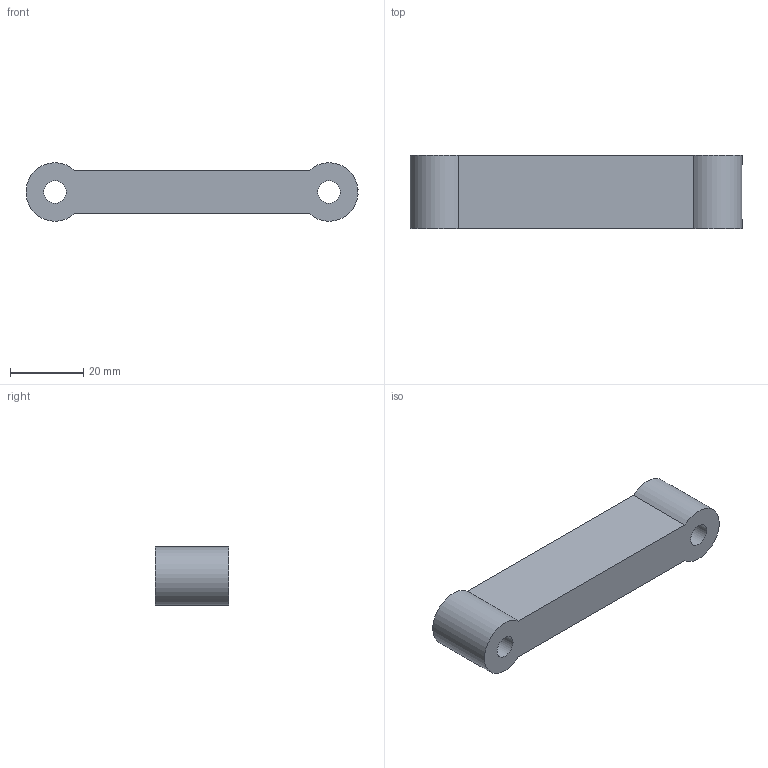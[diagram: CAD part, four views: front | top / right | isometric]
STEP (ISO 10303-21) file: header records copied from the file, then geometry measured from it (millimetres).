
FILE_DESCRIPTION(('Open CASCADE Model'),'2;1');
FILE_NAME('Open CASCADE Shape Model','2026-10-17T21:54:41',('Author'),( 'Open CASCADE'),'Open CASCADE STEP processor 7.9','Open CASCADE 7.9' ,'Unknown');
FILE_SCHEMA(('AUTOMOTIVE_DESIGN { 1 0 10303 214 1 1 1 1 }'));
Length unit declared in the file: millimetre
Products named in the file (1): Open CASCADE STEP translator 7.9 6
Bounding box: 90.94 x 20 x 15.99 mm (x, y, z)
Volume: 21393.8 mm3; surface area: 6963 mm2
Topology: 1 solids, 1 shells, 8 faces, 18 edges, 12 vertices
Faces by surface type: plane 4, cylinder 4
Full cylindrical faces by diameter (mm): 6.2 x2
Entity records: 489 total; most frequent: CARTESIAN_POINT 113, DIRECTION 67, ORIENTED_EDGE 36, PCURVE 36, DEFINITIONAL_REPRESENTATION 36, LINE 30, VECTOR 30, EDGE_CURVE 18
